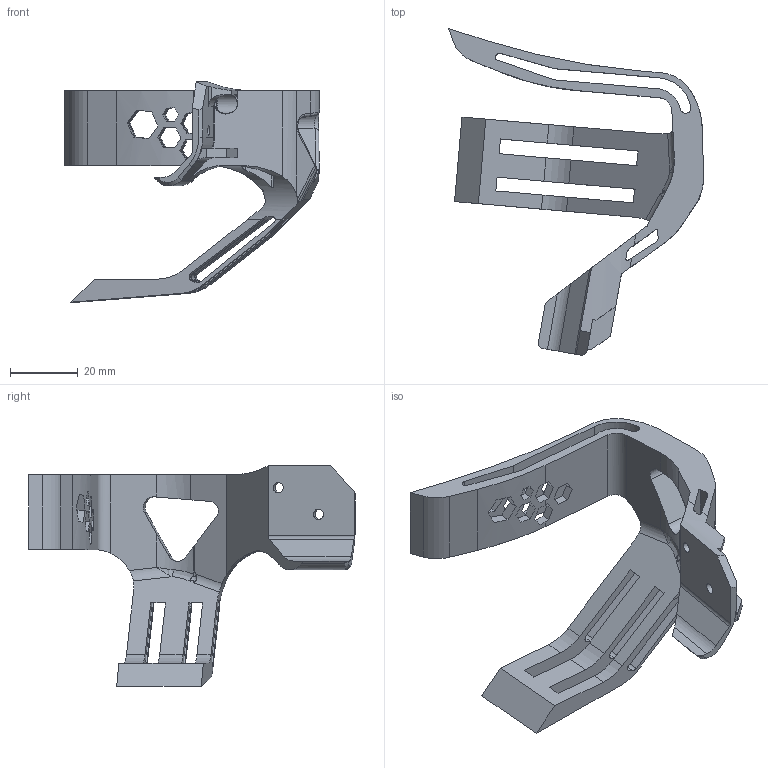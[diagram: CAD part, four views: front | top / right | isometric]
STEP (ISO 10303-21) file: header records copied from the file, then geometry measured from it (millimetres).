
FILE_DESCRIPTION(/* description */ (''),/* implementation_level */ '2;1');
FILE_NAME(/* name */ 'ma2-2.stp',/* time_stamp */ '2021-03-21T20:46:29+08:00',/* author */ (''),/* organization */ (''),/* preprocessor_version */ 'ST-DEVELOPER v16',/* originating_system */ 'SIEMENS PLM Software NX 10.0',/* authorisation */ '');
FILE_SCHEMA (('CONFIG_CONTROL_DESIGN'));
Length unit declared in the file: millimetre
Products named in the file (1): _model2-2
Bounding box: 75.16 x 96.28 x 64.94 mm (x, y, z)
Volume: 26626.3 mm3; surface area: 19683.9 mm2
Topology: 1 solids, 1 shells, 242 faces, 751 edges, 491 vertices
Faces by surface type: plane 154, cylinder 66, bspline 16, cone 4, sphere 2
Full cylindrical faces by diameter (mm): 3 x2, 5.8 x1
Entity records: 9079 total; most frequent: CARTESIAN_POINT 2200, ORIENTED_EDGE 1490, DIRECTION 1387, EDGE_CURVE 745, VERTEX_POINT 489, LINE 467, VECTOR 467, AXIS2_PLACEMENT_3D 460
